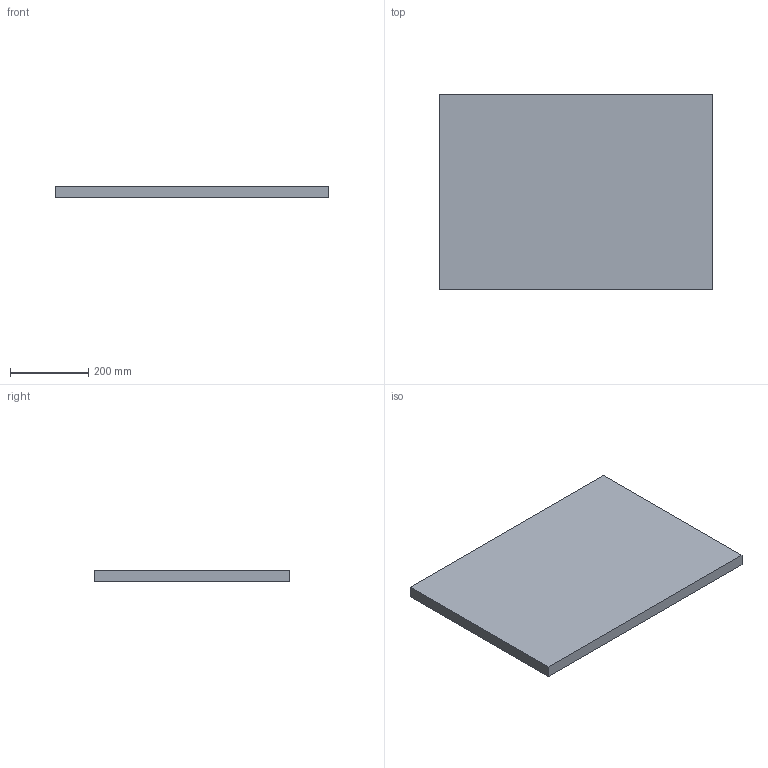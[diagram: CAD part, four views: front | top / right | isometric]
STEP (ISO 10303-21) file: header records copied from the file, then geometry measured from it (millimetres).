
FILE_DESCRIPTION(('Open CASCADE Model'),'2;1');
FILE_NAME('Open CASCADE Shape Model','2026-10-28T20:18:24',('Author'),( 'Open CASCADE'),'Open CASCADE STEP processor 7.8','Open CASCADE 7.8' ,'Unknown');
FILE_SCHEMA(('AUTOMOTIVE_DESIGN { 1 0 10303 214 1 1 1 1 }'));
Length unit declared in the file: millimetre
Products named in the file (1): Open CASCADE STEP translator 7.8 2
Bounding box: 700 x 500 x 30 mm (x, y, z)
Volume: 10500000 mm3; surface area: 772000 mm2
Topology: 1 solids, 1 shells, 6 faces, 12 edges, 8 vertices
Faces by surface type: plane 6
Entity records: 322 total; most frequent: CARTESIAN_POINT 51, DIRECTION 50, LINE 36, VECTOR 36, ORIENTED_EDGE 24, PCURVE 24, DEFINITIONAL_REPRESENTATION 24, EDGE_CURVE 12
